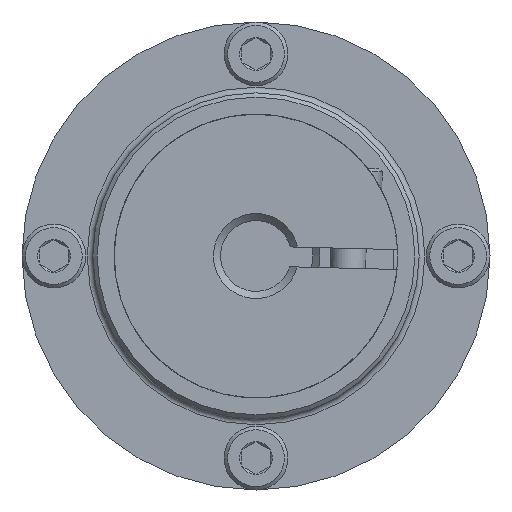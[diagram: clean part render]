
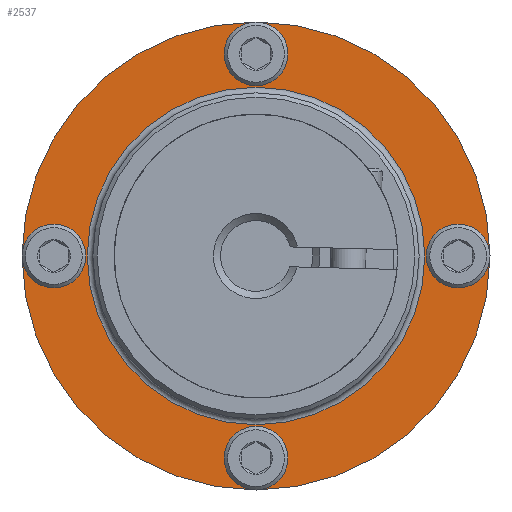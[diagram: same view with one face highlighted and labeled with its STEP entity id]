
A CAD part, left-side view. The second image highlights one B-rep face of the part: STEP entity #2537.
In plain terms, the highlighted planar face has unit normal (-1, 0, 0).
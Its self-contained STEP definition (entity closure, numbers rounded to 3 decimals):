
#153=PLANE('',#2863);
#305=CIRCLE('',#2862,11.9);
#306=CIRCLE('',#2864,1.35);
#307=CIRCLE('',#2865,1.35);
#308=CIRCLE('',#2866,1.35);
#309=CIRCLE('',#2867,1.35);
#310=CIRCLE('',#2868,16.5);
#923=ORIENTED_EDGE('',*,*,#1423,.T.);
#924=ORIENTED_EDGE('',*,*,#1424,.T.);
#925=ORIENTED_EDGE('',*,*,#1425,.T.);
#926=ORIENTED_EDGE('',*,*,#1426,.T.);
#927=ORIENTED_EDGE('',*,*,#1427,.F.);
#928=ORIENTED_EDGE('',*,*,#1422,.T.);
#1422=EDGE_CURVE('',#1699,#1699,#305,.T.);
#1423=EDGE_CURVE('',#1700,#1700,#306,.T.);
#1424=EDGE_CURVE('',#1701,#1701,#307,.T.);
#1425=EDGE_CURVE('',#1702,#1702,#308,.T.);
#1426=EDGE_CURVE('',#1703,#1703,#309,.T.);
#1427=EDGE_CURVE('',#1704,#1704,#310,.T.);
#1699=VERTEX_POINT('',#4531);
#1700=VERTEX_POINT('',#4534);
#1701=VERTEX_POINT('',#4536);
#1702=VERTEX_POINT('',#4538);
#1703=VERTEX_POINT('',#4540);
#1704=VERTEX_POINT('',#4542);
#1967=EDGE_LOOP('',(#923));
#1968=EDGE_LOOP('',(#924));
#1969=EDGE_LOOP('',(#925));
#1970=EDGE_LOOP('',(#926));
#1971=EDGE_LOOP('',(#927));
#1972=EDGE_LOOP('',(#928));
#2232=FACE_BOUND('',#1967,.T.);
#2233=FACE_BOUND('',#1968,.T.);
#2234=FACE_BOUND('',#1969,.T.);
#2235=FACE_BOUND('',#1970,.T.);
#2236=FACE_BOUND('',#1971,.T.);
#2237=FACE_BOUND('',#1972,.T.);
#2537=ADVANCED_FACE('',(#2232,#2233,#2234,#2235,#2236,#2237),#153,.F.);
#2862=AXIS2_PLACEMENT_3D('',#4530,#3488,#3489);
#2863=AXIS2_PLACEMENT_3D('',#4532,#3490,#3491);
#2864=AXIS2_PLACEMENT_3D('',#4533,#3492,#3493);
#2865=AXIS2_PLACEMENT_3D('',#4535,#3494,#3495);
#2866=AXIS2_PLACEMENT_3D('',#4537,#3496,#3497);
#2867=AXIS2_PLACEMENT_3D('',#4539,#3498,#3499);
#2868=AXIS2_PLACEMENT_3D('',#4541,#3500,#3501);
#3488=DIRECTION('',(1.,0.,0.));
#3489=DIRECTION('',(0.,0.,-1.));
#3490=DIRECTION('',(1.,0.,0.));
#3491=DIRECTION('',(0.,0.,-1.));
#3492=DIRECTION('',(1.,0.,0.));
#3493=DIRECTION('',(0.,0.,-1.));
#3494=DIRECTION('',(1.,0.,0.));
#3495=DIRECTION('',(0.,0.,-1.));
#3496=DIRECTION('',(1.,0.,0.));
#3497=DIRECTION('',(0.,0.,-1.));
#3498=DIRECTION('',(1.,0.,0.));
#3499=DIRECTION('',(0.,0.,-1.));
#3500=DIRECTION('',(1.,0.,0.));
#3501=DIRECTION('',(0.,0.,-1.));
#4530=CARTESIAN_POINT('',(22.,0.,0.));
#4531=CARTESIAN_POINT('',(22.,0.,-11.9));
#4532=CARTESIAN_POINT('',(22.,11.9,0.));
#4533=CARTESIAN_POINT('',(22.,0.,14.25));
#4534=CARTESIAN_POINT('',(22.,0.,12.9));
#4535=CARTESIAN_POINT('',(22.,-14.25,0.));
#4536=CARTESIAN_POINT('',(22.,-14.25,-1.35));
#4537=CARTESIAN_POINT('',(22.,0.,-14.25));
#4538=CARTESIAN_POINT('',(22.,0.,-15.6));
#4539=CARTESIAN_POINT('',(22.,14.25,0.));
#4540=CARTESIAN_POINT('',(22.,14.25,-1.35));
#4541=CARTESIAN_POINT('',(22.,0.,0.));
#4542=CARTESIAN_POINT('',(22.,0.,-16.5));
